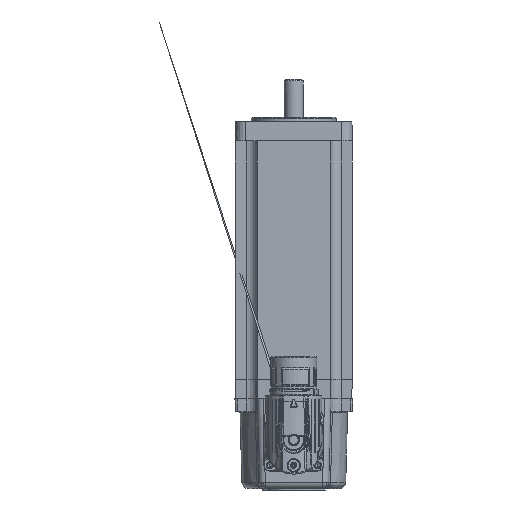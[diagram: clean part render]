
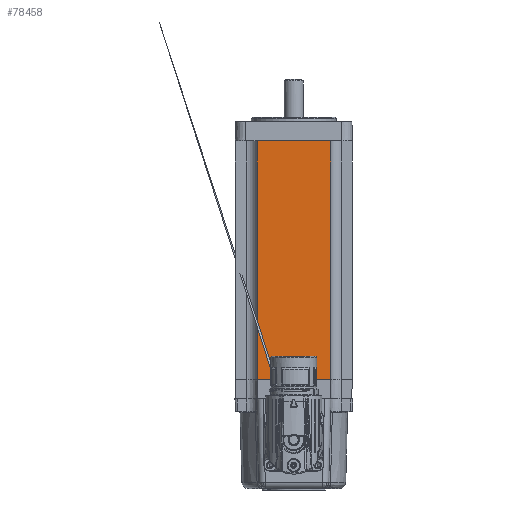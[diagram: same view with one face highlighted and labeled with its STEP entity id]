
A CAD part, front view. The second image highlights one B-rep face of the part: STEP entity #78458.
In plain terms, the highlighted planar face has unit normal (0, -1, 0).
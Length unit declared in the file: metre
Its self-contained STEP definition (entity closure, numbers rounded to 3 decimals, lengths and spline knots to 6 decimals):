
#3292 = VERTEX_POINT ( 'NONE', #58517 ) ;
#19119 = CARTESIAN_POINT ( 'NONE',  ( -0.0275, -0.0275, -0.0561 ) ) ;
#23254 = CARTESIAN_POINT ( 'NONE',  ( 0., -0.0275, 0.0561 ) ) ;
#23470 = ORIENTED_EDGE ( 'NONE', *, *, #40088, .T. ) ;
#26114 = ORIENTED_EDGE ( 'NONE', *, *, #52374, .T. ) ;
#34311 = DIRECTION ( 'NONE',  ( 1., 0., 0. ) ) ;
#35755 = VECTOR ( 'NONE', #76661, 1. ) ;
#36663 = EDGE_CURVE ( 'NONE', #106491, #88924, #112225, .T. ) ;
#38599 = AXIS2_PLACEMENT_3D ( 'NONE', #108097, #119187, #53139 ) ;
#40088 = EDGE_CURVE ( 'NONE', #3292, #130040, #120336, .T. ) ;
#42816 = CARTESIAN_POINT ( 'NONE',  ( -0.017274, -0.0275, -0.0561 ) ) ;
#43906 = ORIENTED_EDGE ( 'NONE', *, *, #36663, .T. ) ;
#48045 = CARTESIAN_POINT ( 'NONE',  ( 0.017274, -0.0275, 0.06732 ) ) ;
#52372 = DIRECTION ( 'NONE',  ( 1., 0., 0. ) ) ;
#52374 = EDGE_CURVE ( 'NONE', #130040, #106491, #134599, .T. ) ;
#53139 = DIRECTION ( 'NONE',  ( 0., 0., -1. ) ) ;
#57142 = CARTESIAN_POINT ( 'NONE',  ( 0.017274, -0.0275, 0.0561 ) ) ;
#58517 = CARTESIAN_POINT ( 'NONE',  ( -0.017274, -0.0275, 0.0561 ) ) ;
#65013 = FACE_OUTER_BOUND ( 'NONE', #124907, .T. ) ;
#73964 = LINE ( 'NONE', #23254, #129146 ) ;
#75199 = EDGE_CURVE ( 'NONE', #3292, #88924, #73964, .T. ) ;
#76661 = DIRECTION ( 'NONE',  ( 0., 0., -1. ) ) ;
#78458 = ADVANCED_FACE ( 'NONE', ( #65013 ), #140890, .T. ) ;
#88924 = VERTEX_POINT ( 'NONE', #57142 ) ;
#106491 = VERTEX_POINT ( 'NONE', #109909 ) ;
#108097 = CARTESIAN_POINT ( 'NONE',  ( -0.0275, -0.0275, 0.0561 ) ) ;
#109909 = CARTESIAN_POINT ( 'NONE',  ( 0.017274, -0.0275, -0.0561 ) ) ;
#112225 = LINE ( 'NONE', #48045, #141598 ) ;
#114136 = DIRECTION ( 'NONE',  ( 0., 0., 1. ) ) ;
#119187 = DIRECTION ( 'NONE',  ( 0., -1., 0. ) ) ;
#120336 = LINE ( 'NONE', #131597, #35755 ) ;
#120397 = ORIENTED_EDGE ( 'NONE', *, *, #75199, .F. ) ;
#124907 = EDGE_LOOP ( 'NONE', ( #26114, #43906, #120397, #23470 ) ) ;
#127738 = VECTOR ( 'NONE', #52372, 1. ) ;
#129146 = VECTOR ( 'NONE', #34311, 1. ) ;
#130040 = VERTEX_POINT ( 'NONE', #42816 ) ;
#131597 = CARTESIAN_POINT ( 'NONE',  ( -0.017274, -0.0275, 0.0561 ) ) ;
#134599 = LINE ( 'NONE', #19119, #127738 ) ;
#140890 = PLANE ( 'NONE',  #38599 ) ;
#141598 = VECTOR ( 'NONE', #114136, 1. ) ;
